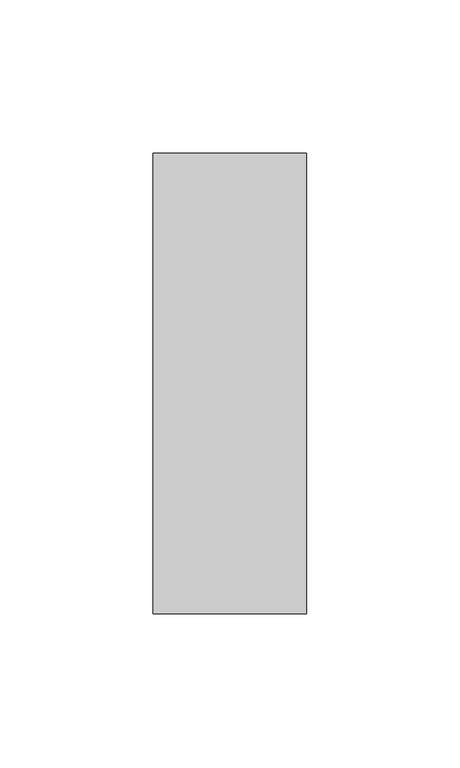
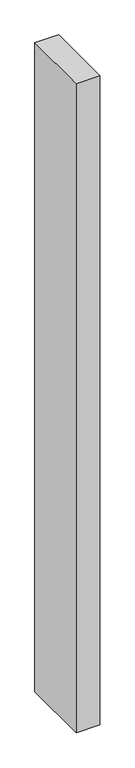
"""IFC4 building model written with IfcOpenShell, lengths in millimetres: member geometry, Прямоугольный импост : 50 x 150 мм."""

from ifc_helpers import new_model, si_unit, frame, origin, place, context, project, spatial, polyline, outline, extrude, source, transform, mapped, element, save


def member_cfc3e7e4(model_context):
    return source(origin(), model_context, "Body", "SweptSolid", [
        extrude(outline(polyline([(25.0, 75.0), (25.0, -75.0), (-25.0, -75.0), (-25.0, 75.0), (25.0, 75.0)])), frame((0.0, 0.0, -1443.8310728), z_axis=(0.0, 0.0, 1.0), x_axis=(1.0, 0.0, 0.0)), (0.0, 0.0, 1.0), 1443.8310728),
    ])


if __name__ == "__main__":
    model = new_model("IFC4")
    model_context = context("Model", 3, world=origin())
    ifc_project = project(units=[si_unit("LENGTHUNIT", "METRE", prefix="MILLI")], contexts=[model_context])
    site = spatial("IfcSite", under=ifc_project)
    building = spatial("IfcBuilding", under=site)
    placement = place(None, origin())
    member_shape = member_cfc3e7e4(model_context)
    element("IfcMember", 1, ObjectType="Прямоугольный импост : 50 x 150 мм", at=placement, inside=building, context=model_context, shape_type="MappedRepresentation", body=[
        mapped(member_shape, transform((0.0, 0.0, 0.0), x_axis=(1.0, 0.0, 0.0), y_axis=(0.0, 1.0, 0.0), z_axis=(0.0, 0.0, 1.0))),
    ])
    save(model, "model.ifc")
